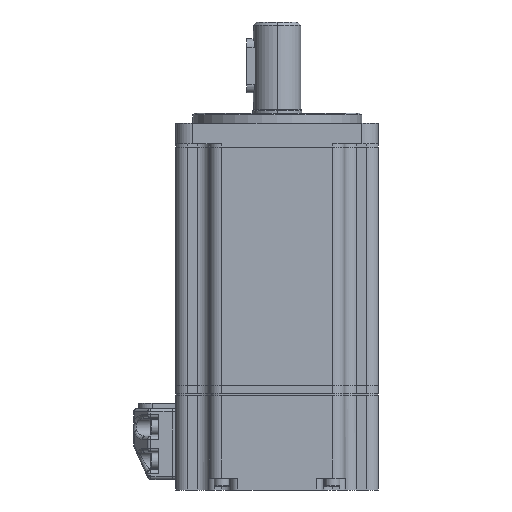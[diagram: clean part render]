
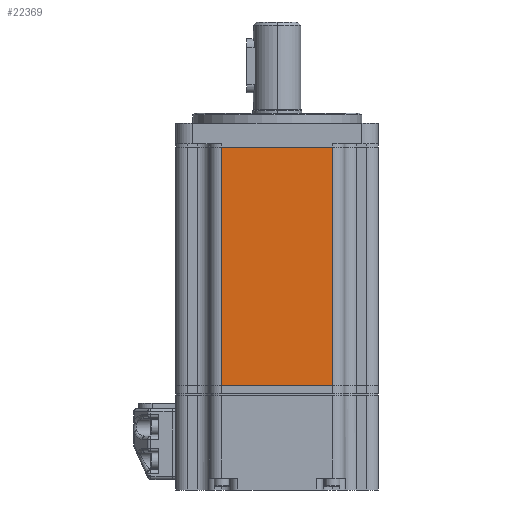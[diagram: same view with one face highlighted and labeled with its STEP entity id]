
A CAD part, front view. The second image highlights one B-rep face of the part: STEP entity #22369.
In plain terms, the highlighted planar face has unit normal (0, -1, 0).
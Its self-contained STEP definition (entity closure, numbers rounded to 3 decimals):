
#704 = VECTOR ( 'NONE', #26154, 1000. ) ;
#1773 = LINE ( 'NONE', #2962, #704 ) ;
#2962 = CARTESIAN_POINT ( 'NONE',  ( 20., -30., -1. ) ) ;
#3188 = PLANE ( 'NONE',  #15255 ) ;
#3198 = VERTEX_POINT ( 'NONE', #34328 ) ;
#4133 = VECTOR ( 'NONE', #36037, 1000. ) ;
#5159 = EDGE_CURVE ( 'NONE', #39533, #11692, #18304, .T. ) ;
#9470 = VECTOR ( 'NONE', #26629, 1000. ) ;
#11692 = VERTEX_POINT ( 'NONE', #14238 ) ;
#13183 = DIRECTION ( 'NONE',  ( 0., 0., 1. ) ) ;
#14238 = CARTESIAN_POINT ( 'NONE',  ( -16.5, -30., -71.5 ) ) ;
#15255 = AXIS2_PLACEMENT_3D ( 'NONE', #19761, #33077, #13183 ) ;
#16720 = EDGE_CURVE ( 'NONE', #3198, #39754, #34010, .T. ) ;
#17046 = EDGE_LOOP ( 'NONE', ( #31862, #42104, #39650, #42696 ) ) ;
#17694 = EDGE_CURVE ( 'NONE', #39754, #39533, #1773, .T. ) ;
#18304 = LINE ( 'NONE', #36524, #9470 ) ;
#19151 = CARTESIAN_POINT ( 'NONE',  ( 16.5, -30., -71.5 ) ) ;
#19392 = CARTESIAN_POINT ( 'NONE',  ( 20., -30., -71.5 ) ) ;
#19761 = CARTESIAN_POINT ( 'NONE',  ( 20., -30., -71.5 ) ) ;
#22369 = ADVANCED_FACE ( 'NONE', ( #32663 ), #3188, .F. ) ;
#25230 = VECTOR ( 'NONE', #25771, 1000. ) ;
#25771 = DIRECTION ( 'NONE',  ( 0., 0., 1. ) ) ;
#26154 = DIRECTION ( 'NONE',  ( -1., 0., 0. ) ) ;
#26629 = DIRECTION ( 'NONE',  ( 0., 0., -1. ) ) ;
#31862 = ORIENTED_EDGE ( 'NONE', *, *, #32924, .F. ) ;
#32663 = FACE_OUTER_BOUND ( 'NONE', #17046, .T. ) ;
#32924 = EDGE_CURVE ( 'NONE', #3198, #11692, #39456, .T. ) ;
#33077 = DIRECTION ( 'NONE',  ( 0., 1., 0. ) ) ;
#34010 = LINE ( 'NONE', #19151, #25230 ) ;
#34328 = CARTESIAN_POINT ( 'NONE',  ( 16.5, -30., -71.5 ) ) ;
#36037 = DIRECTION ( 'NONE',  ( -1., 0., 0. ) ) ;
#36524 = CARTESIAN_POINT ( 'NONE',  ( -16.5, -30., -71.5 ) ) ;
#39456 = LINE ( 'NONE', #19392, #4133 ) ;
#39533 = VERTEX_POINT ( 'NONE', #42920 ) ;
#39650 = ORIENTED_EDGE ( 'NONE', *, *, #17694, .T. ) ;
#39754 = VERTEX_POINT ( 'NONE', #40847 ) ;
#40847 = CARTESIAN_POINT ( 'NONE',  ( 16.5, -30., -1. ) ) ;
#42104 = ORIENTED_EDGE ( 'NONE', *, *, #16720, .T. ) ;
#42696 = ORIENTED_EDGE ( 'NONE', *, *, #5159, .T. ) ;
#42920 = CARTESIAN_POINT ( 'NONE',  ( -16.5, -30., -1. ) ) ;
